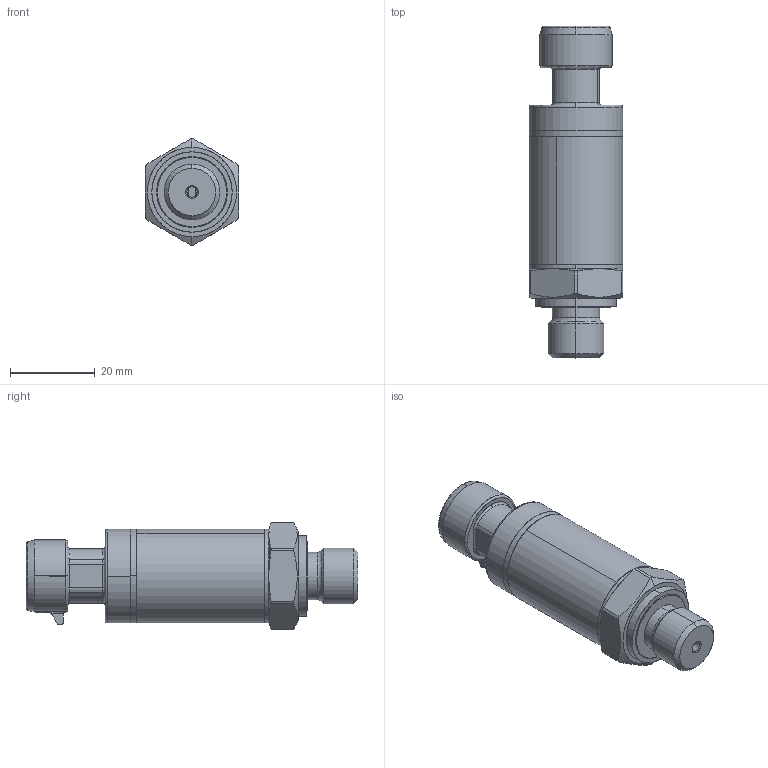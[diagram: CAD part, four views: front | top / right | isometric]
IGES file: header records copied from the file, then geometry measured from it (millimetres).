
Start section: SolidWorks IGES file using analytic representation for surfaces
Global section: file name: \\srv4gefran\dir-cat\Disegni Catalogo\Pressione\KH\3D\Solidworks 2015\KH_Metripack.IGS; native system: SolidWorks 2015; preprocessor: SolidWorks 2015; author: Loda-w1; date: 160303.164159; units: millimetre
Bounding box: 22 x 78.1 x 25 mm (x, y, z)
Surface area: 12446.4 mm2 (no closed solid volume)
Topology: 0 solids, 0 shells, 425 faces, 5621 edges, 6692 vertices
Faces by surface type: bspline 259, revolution 166
